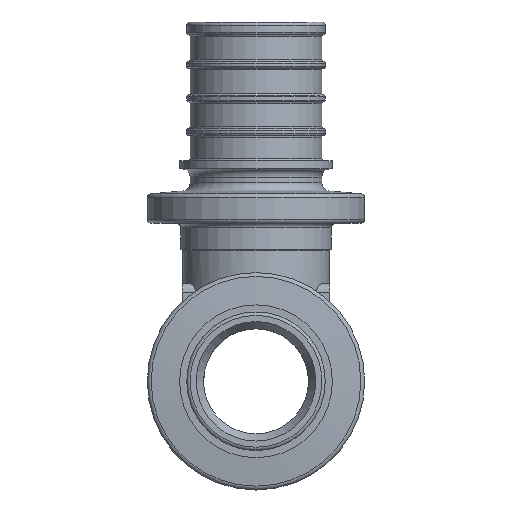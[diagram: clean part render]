
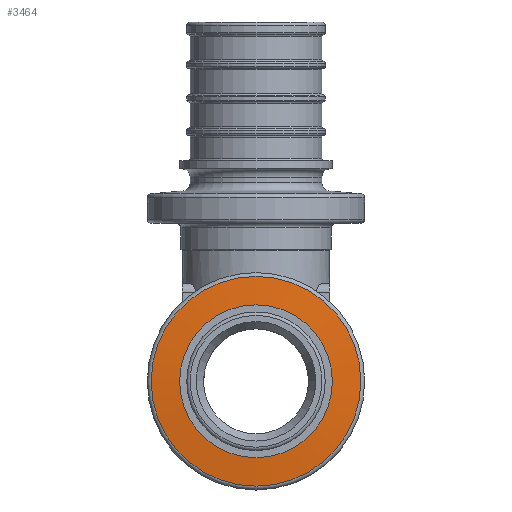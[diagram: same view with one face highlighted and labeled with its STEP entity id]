
A CAD part, front view. The second image highlights one B-rep face of the part: STEP entity #3464.
In plain terms, the highlighted conical face has half-angle 85 degrees and reference radius 10.628 mm.
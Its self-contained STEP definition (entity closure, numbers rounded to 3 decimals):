
#3464=ADVANCED_FACE('',(#7195,#7197),#7199,.T.);
#7195=FACE_OUTER_BOUND('',#7196,.T.);
#7196=EDGE_LOOP('',(#10804));
#7197=FACE_BOUND('',#7198,.T.);
#7198=EDGE_LOOP('',(#10805,#10806));
#7199=CONICAL_SURFACE('',#7200,10.628,1.484);
#7200=AXIS2_PLACEMENT_3D('',#7201,#7202,#7203);
#7201=CARTESIAN_POINT('',(0.,-22.503,0.));
#7202=DIRECTION('',(0.,1.,0.));
#7203=DIRECTION('',(0.,0.,-1.));
#10804=ORIENTED_EDGE('',*,*,#12075,.T.);
#10805=ORIENTED_EDGE('',*,*,#12078,.T.);
#10806=ORIENTED_EDGE('',*,*,#12079,.T.);
#12075=EDGE_CURVE('',#13936,#13936,#13937,.T.);
#12078=EDGE_CURVE('',#13942,#13943,#13944,.F.);
#12079=EDGE_CURVE('',#13943,#13942,#13945,.F.);
#13936=VERTEX_POINT('',#18648);
#13937=CIRCLE('',#18649,12.494);
#13942=VERTEX_POINT('',#18663);
#13943=VERTEX_POINT('',#18664);
#13944=CIRCLE('',#18665,8.763);
#13945=CIRCLE('',#18669,8.763);
#18648=CARTESIAN_POINT('',(0.,-22.34,12.494));
#18649=AXIS2_PLACEMENT_3D('',#18650,#18651,#18652);
#18650=CARTESIAN_POINT('',(0.,-22.34,0.));
#18651=DIRECTION('',(0.,-1.,0.));
#18652=DIRECTION('',(0.,0.,1.));
#18663=CARTESIAN_POINT('',(0.,-22.666,8.763));
#18664=CARTESIAN_POINT('',(-8.763,-22.666,0.));
#18665=AXIS2_PLACEMENT_3D('',#18666,#18667,#18668);
#18666=CARTESIAN_POINT('',(0.,-22.666,0.));
#18667=DIRECTION('',(0.,-1.,0.));
#18668=DIRECTION('',(-1.,0.,0.));
#18669=AXIS2_PLACEMENT_3D('',#18670,#18671,#18672);
#18670=CARTESIAN_POINT('',(0.,-22.666,0.));
#18671=DIRECTION('',(0.,-1.,0.));
#18672=DIRECTION('',(0.,0.,1.));
